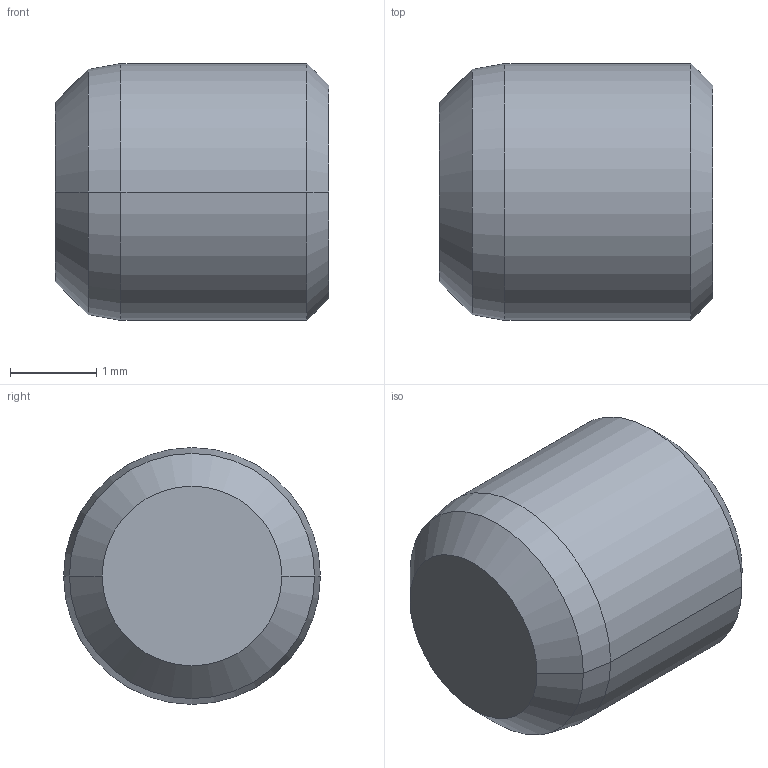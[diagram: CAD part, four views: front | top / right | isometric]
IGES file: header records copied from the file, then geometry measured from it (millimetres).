
Start section:  PTC IGES file: bb48.igs
Global section: file name: bb48.igs; native system: Pro/ENGINEER by Parametric Technology Corporation; preprocessor: 2002350; author: chant; organization: Unknown; date: 070705.140734; units: inch
Bounding box: 3.17 x 2.98 x 2.98 mm (x, y, z)
Surface area: 39.9 mm2 (no closed solid volume)
Topology: 0 solids, 0 shells, 13 faces, 65 edges, 75 vertices
Faces by surface type: revolution 10, bspline 3
